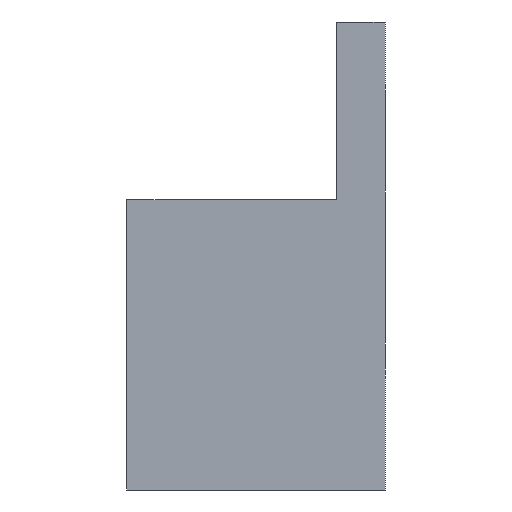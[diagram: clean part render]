
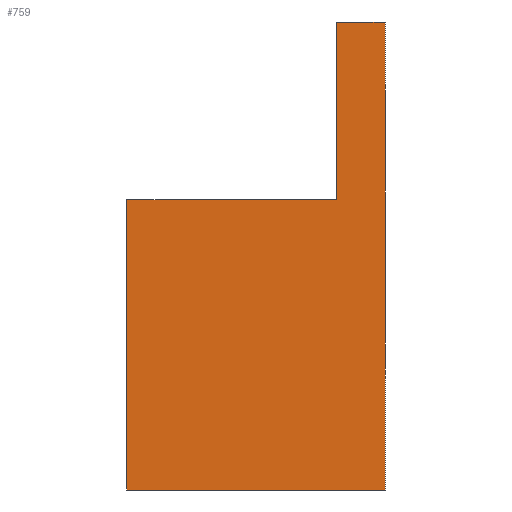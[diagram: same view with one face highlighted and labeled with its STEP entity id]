
A CAD part, front view. The second image highlights one B-rep face of the part: STEP entity #759.
In plain terms, the highlighted planar face has unit normal (0, -1, 0).
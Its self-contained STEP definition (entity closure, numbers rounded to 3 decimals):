
#32 = PLANE('',#33);
#33 = AXIS2_PLACEMENT_3D('',#34,#35,#36);
#34 = CARTESIAN_POINT('',(114.,-26.,47.95));
#35 = DIRECTION('',(1.,0.,-0.));
#36 = DIRECTION('',(0.,0.,1.));
#57 = VERTEX_POINT('',#58);
#58 = CARTESIAN_POINT('',(114.,-26.,76.95));
#72 = PLANE('',#73);
#73 = AXIS2_PLACEMENT_3D('',#74,#75,#76);
#74 = CARTESIAN_POINT('',(114.,-26.,76.95));
#75 = DIRECTION('',(0.,0.,1.));
#76 = DIRECTION('',(1.,0.,-0.));
#84 = EDGE_CURVE('',#85,#57,#87,.T.);
#85 = VERTEX_POINT('',#86);
#86 = CARTESIAN_POINT('',(114.,-26.,65.95));
#87 = SURFACE_CURVE('',#88,(#92,#99),.PCURVE_S1.);
#88 = LINE('',#89,#90);
#89 = CARTESIAN_POINT('',(114.,-26.,47.95));
#90 = VECTOR('',#91,1.);
#91 = DIRECTION('',(0.,0.,1.));
#92 = PCURVE('',#32,#93);
#93 = DEFINITIONAL_REPRESENTATION('',(#94),#98);
#94 = LINE('',#95,#96);
#95 = CARTESIAN_POINT('',(0.,0.));
#96 = VECTOR('',#97,1.);
#97 = DIRECTION('',(1.,0.));
#98 = ( GEOMETRIC_REPRESENTATION_CONTEXT(2) 
PARAMETRIC_REPRESENTATION_CONTEXT() REPRESENTATION_CONTEXT('2D SPACE',''
  ) );
#99 = PCURVE('',#100,#105);
#100 = PLANE('',#101);
#101 = AXIS2_PLACEMENT_3D('',#102,#103,#104);
#102 = CARTESIAN_POINT('',(114.,-26.,47.95));
#103 = DIRECTION('',(-0.,1.,0.));
#104 = DIRECTION('',(0.,0.,1.));
#105 = DEFINITIONAL_REPRESENTATION('',(#106),#110);
#106 = LINE('',#107,#108);
#107 = CARTESIAN_POINT('',(0.,0.));
#108 = VECTOR('',#109,1.);
#109 = DIRECTION('',(1.,0.));
#110 = ( GEOMETRIC_REPRESENTATION_CONTEXT(2) 
PARAMETRIC_REPRESENTATION_CONTEXT() REPRESENTATION_CONTEXT('2D SPACE',''
  ) );
#128 = PLANE('',#129);
#129 = AXIS2_PLACEMENT_3D('',#130,#131,#132);
#130 = CARTESIAN_POINT('',(101.,-26.,65.95));
#131 = DIRECTION('',(0.,0.,1.));
#132 = DIRECTION('',(1.,0.,-0.));
#455 = PLANE('',#456);
#456 = AXIS2_PLACEMENT_3D('',#457,#458,#459);
#457 = CARTESIAN_POINT('',(114.,-26.,47.95));
#458 = DIRECTION('',(0.,0.,1.));
#459 = DIRECTION('',(1.,0.,-0.));
#554 = PLANE('',#555);
#555 = AXIS2_PLACEMENT_3D('',#556,#557,#558);
#556 = CARTESIAN_POINT('',(117.,-26.,47.95));
#557 = DIRECTION('',(1.,0.,-0.));
#558 = DIRECTION('',(0.,0.,1.));
#619 = EDGE_CURVE('',#57,#620,#622,.T.);
#620 = VERTEX_POINT('',#621);
#621 = CARTESIAN_POINT('',(117.,-26.,76.95));
#622 = SURFACE_CURVE('',#623,(#627,#634),.PCURVE_S1.);
#623 = LINE('',#624,#625);
#624 = CARTESIAN_POINT('',(114.,-26.,76.95));
#625 = VECTOR('',#626,1.);
#626 = DIRECTION('',(1.,0.,-0.));
#627 = PCURVE('',#72,#628);
#628 = DEFINITIONAL_REPRESENTATION('',(#629),#633);
#629 = LINE('',#630,#631);
#630 = CARTESIAN_POINT('',(0.,0.));
#631 = VECTOR('',#632,1.);
#632 = DIRECTION('',(1.,0.));
#633 = ( GEOMETRIC_REPRESENTATION_CONTEXT(2) 
PARAMETRIC_REPRESENTATION_CONTEXT() REPRESENTATION_CONTEXT('2D SPACE',''
  ) );
#634 = PCURVE('',#100,#635);
#635 = DEFINITIONAL_REPRESENTATION('',(#636),#640);
#636 = LINE('',#637,#638);
#637 = CARTESIAN_POINT('',(29.,0.));
#638 = VECTOR('',#639,1.);
#639 = DIRECTION('',(0.,1.));
#640 = ( GEOMETRIC_REPRESENTATION_CONTEXT(2) 
PARAMETRIC_REPRESENTATION_CONTEXT() REPRESENTATION_CONTEXT('2D SPACE',''
  ) );
#759 = ADVANCED_FACE('',(#760),#100,.F.);
#760 = FACE_BOUND('',#761,.F.);
#761 = EDGE_LOOP('',(#762,#787,#815,#836,#837,#838));
#762 = ORIENTED_EDGE('',*,*,#763,.F.);
#763 = EDGE_CURVE('',#764,#766,#768,.T.);
#764 = VERTEX_POINT('',#765);
#765 = CARTESIAN_POINT('',(101.,-26.,47.95));
#766 = VERTEX_POINT('',#767);
#767 = CARTESIAN_POINT('',(117.,-26.,47.95));
#768 = SURFACE_CURVE('',#769,(#773,#780),.PCURVE_S1.);
#769 = LINE('',#770,#771);
#770 = CARTESIAN_POINT('',(101.,-26.,47.95));
#771 = VECTOR('',#772,1.);
#772 = DIRECTION('',(1.,0.,0.));
#773 = PCURVE('',#100,#774);
#774 = DEFINITIONAL_REPRESENTATION('',(#775),#779);
#775 = LINE('',#776,#777);
#776 = CARTESIAN_POINT('',(0.,-13.));
#777 = VECTOR('',#778,1.);
#778 = DIRECTION('',(0.,1.));
#779 = ( GEOMETRIC_REPRESENTATION_CONTEXT(2) 
PARAMETRIC_REPRESENTATION_CONTEXT() REPRESENTATION_CONTEXT('2D SPACE',''
  ) );
#780 = PCURVE('',#455,#781);
#781 = DEFINITIONAL_REPRESENTATION('',(#782),#786);
#782 = LINE('',#783,#784);
#783 = CARTESIAN_POINT('',(-13.,0.));
#784 = VECTOR('',#785,1.);
#785 = DIRECTION('',(1.,0.));
#786 = ( GEOMETRIC_REPRESENTATION_CONTEXT(2) 
PARAMETRIC_REPRESENTATION_CONTEXT() REPRESENTATION_CONTEXT('2D SPACE',''
  ) );
#787 = ORIENTED_EDGE('',*,*,#788,.T.);
#788 = EDGE_CURVE('',#764,#789,#791,.T.);
#789 = VERTEX_POINT('',#790);
#790 = CARTESIAN_POINT('',(101.,-26.,65.95));
#791 = SURFACE_CURVE('',#792,(#796,#803),.PCURVE_S1.);
#792 = LINE('',#793,#794);
#793 = CARTESIAN_POINT('',(101.,-26.,47.95));
#794 = VECTOR('',#795,1.);
#795 = DIRECTION('',(0.,0.,1.));
#796 = PCURVE('',#100,#797);
#797 = DEFINITIONAL_REPRESENTATION('',(#798),#802);
#798 = LINE('',#799,#800);
#799 = CARTESIAN_POINT('',(0.,-13.));
#800 = VECTOR('',#801,1.);
#801 = DIRECTION('',(1.,0.));
#802 = ( GEOMETRIC_REPRESENTATION_CONTEXT(2) 
PARAMETRIC_REPRESENTATION_CONTEXT() REPRESENTATION_CONTEXT('2D SPACE',''
  ) );
#803 = PCURVE('',#804,#809);
#804 = PLANE('',#805);
#805 = AXIS2_PLACEMENT_3D('',#806,#807,#808);
#806 = CARTESIAN_POINT('',(101.,-26.,47.95));
#807 = DIRECTION('',(1.,0.,-0.));
#808 = DIRECTION('',(0.,0.,1.));
#809 = DEFINITIONAL_REPRESENTATION('',(#810),#814);
#810 = LINE('',#811,#812);
#811 = CARTESIAN_POINT('',(0.,0.));
#812 = VECTOR('',#813,1.);
#813 = DIRECTION('',(1.,0.));
#814 = ( GEOMETRIC_REPRESENTATION_CONTEXT(2) 
PARAMETRIC_REPRESENTATION_CONTEXT() REPRESENTATION_CONTEXT('2D SPACE',''
  ) );
#815 = ORIENTED_EDGE('',*,*,#816,.T.);
#816 = EDGE_CURVE('',#789,#85,#817,.T.);
#817 = SURFACE_CURVE('',#818,(#822,#829),.PCURVE_S1.);
#818 = LINE('',#819,#820);
#819 = CARTESIAN_POINT('',(101.,-26.,65.95));
#820 = VECTOR('',#821,1.);
#821 = DIRECTION('',(1.,0.,-0.));
#822 = PCURVE('',#100,#823);
#823 = DEFINITIONAL_REPRESENTATION('',(#824),#828);
#824 = LINE('',#825,#826);
#825 = CARTESIAN_POINT('',(18.,-13.));
#826 = VECTOR('',#827,1.);
#827 = DIRECTION('',(0.,1.));
#828 = ( GEOMETRIC_REPRESENTATION_CONTEXT(2) 
PARAMETRIC_REPRESENTATION_CONTEXT() REPRESENTATION_CONTEXT('2D SPACE',''
  ) );
#829 = PCURVE('',#128,#830);
#830 = DEFINITIONAL_REPRESENTATION('',(#831),#835);
#831 = LINE('',#832,#833);
#832 = CARTESIAN_POINT('',(0.,0.));
#833 = VECTOR('',#834,1.);
#834 = DIRECTION('',(1.,0.));
#835 = ( GEOMETRIC_REPRESENTATION_CONTEXT(2) 
PARAMETRIC_REPRESENTATION_CONTEXT() REPRESENTATION_CONTEXT('2D SPACE',''
  ) );
#836 = ORIENTED_EDGE('',*,*,#84,.T.);
#837 = ORIENTED_EDGE('',*,*,#619,.T.);
#838 = ORIENTED_EDGE('',*,*,#839,.F.);
#839 = EDGE_CURVE('',#766,#620,#840,.T.);
#840 = SURFACE_CURVE('',#841,(#845,#852),.PCURVE_S1.);
#841 = LINE('',#842,#843);
#842 = CARTESIAN_POINT('',(117.,-26.,47.95));
#843 = VECTOR('',#844,1.);
#844 = DIRECTION('',(0.,0.,1.));
#845 = PCURVE('',#100,#846);
#846 = DEFINITIONAL_REPRESENTATION('',(#847),#851);
#847 = LINE('',#848,#849);
#848 = CARTESIAN_POINT('',(0.,3.));
#849 = VECTOR('',#850,1.);
#850 = DIRECTION('',(1.,0.));
#851 = ( GEOMETRIC_REPRESENTATION_CONTEXT(2) 
PARAMETRIC_REPRESENTATION_CONTEXT() REPRESENTATION_CONTEXT('2D SPACE',''
  ) );
#852 = PCURVE('',#554,#853);
#853 = DEFINITIONAL_REPRESENTATION('',(#854),#858);
#854 = LINE('',#855,#856);
#855 = CARTESIAN_POINT('',(0.,0.));
#856 = VECTOR('',#857,1.);
#857 = DIRECTION('',(1.,0.));
#858 = ( GEOMETRIC_REPRESENTATION_CONTEXT(2) 
PARAMETRIC_REPRESENTATION_CONTEXT() REPRESENTATION_CONTEXT('2D SPACE',''
  ) );
